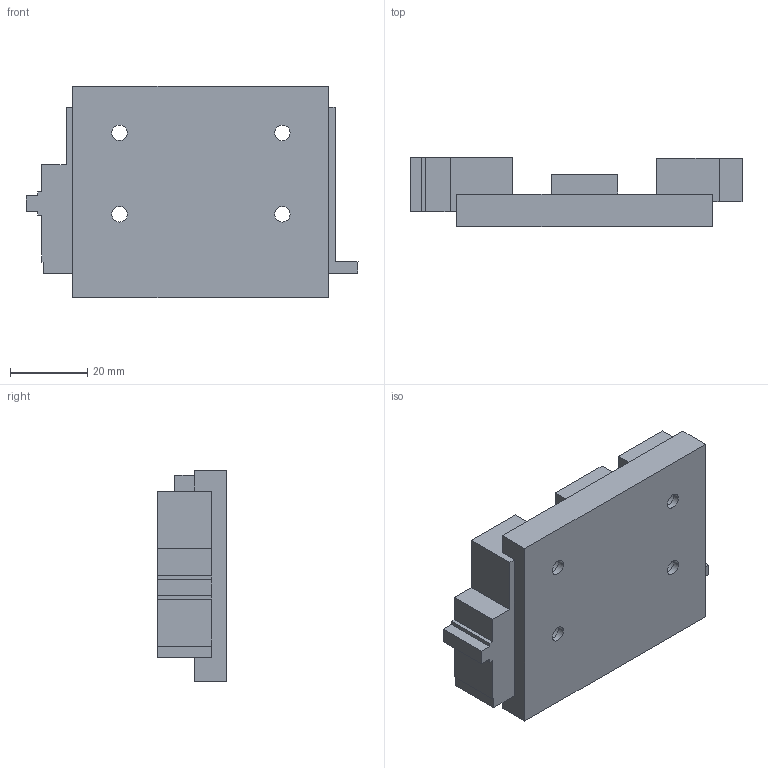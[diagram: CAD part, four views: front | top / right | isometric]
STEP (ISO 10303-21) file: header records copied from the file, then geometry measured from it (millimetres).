
FILE_DESCRIPTION (( 'STEP AP203' ), '1' );
FILE_NAME ('Arretierung links_092859.STEP', '2024-02-26T14:09:49', ( '' ), ( '' ), 'SwSTEP 2.0', 'SolidWorks 2023', '' );
FILE_SCHEMA (( 'CONFIG_CONTROL_DESIGN' ));
Length unit declared in the file: millimetre
Products named in the file (1): Arretierung links_092859
Bounding box: 85.69 x 17.75 x 54.5 mm (x, y, z)
Volume: 44993.3 mm3; surface area: 13922 mm2
Topology: 1 solids, 1 shells, 65 faces, 186 edges, 124 vertices
Faces by surface type: plane 49, cylinder 16
Entity records: 2213 total; most frequent: CARTESIAN_POINT 376, ORIENTED_EDGE 372, DIRECTION 358, EDGE_CURVE 186, VECTOR 146, LINE 146, VERTEX_POINT 124, AXIS2_PLACEMENT_3D 106
